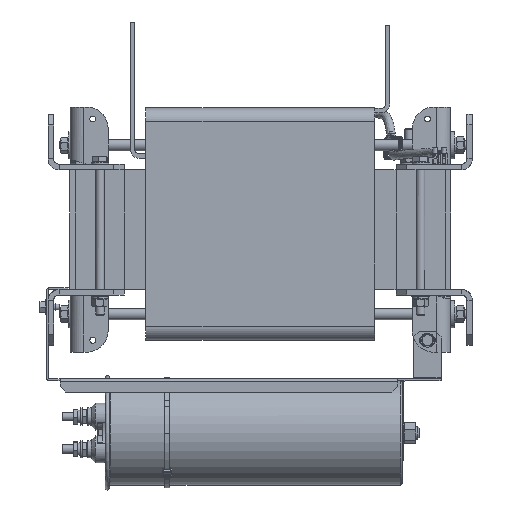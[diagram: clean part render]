
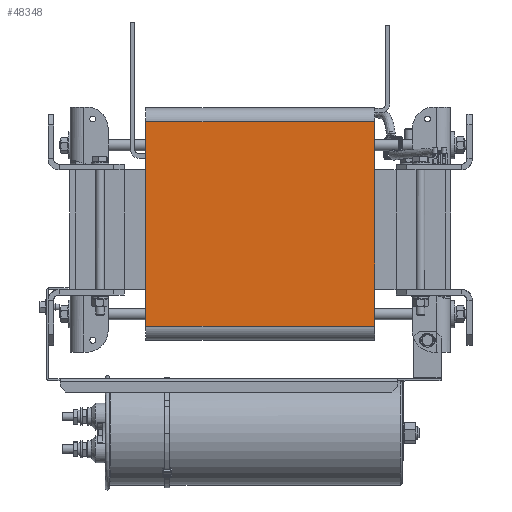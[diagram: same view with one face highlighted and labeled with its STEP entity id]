
A CAD part, left-side view. The second image highlights one B-rep face of the part: STEP entity #48348.
In plain terms, the highlighted planar face has unit normal (-1, 0, 0).
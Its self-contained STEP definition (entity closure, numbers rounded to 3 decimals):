
#2783=PLANE('',#52264);
#4944=FACE_OUTER_BOUND('',#7717,.T.);
#7717=EDGE_LOOP('',(#39855,#39856,#39857,#39858));
#11659=LINE('',#80048,#15820);
#11665=LINE('',#80067,#15826);
#11673=LINE('',#80084,#15834);
#11674=LINE('',#80086,#15835);
#15820=VECTOR('',#62846,10.);
#15826=VECTOR('',#62862,10.);
#15834=VECTOR('',#62880,10.);
#15835=VECTOR('',#62883,10.);
#22289=VERTEX_POINT('',#80045);
#22290=VERTEX_POINT('',#80047);
#22297=VERTEX_POINT('',#80064);
#22298=VERTEX_POINT('',#80066);
#28400=EDGE_CURVE('',#22289,#22290,#11659,.T.);
#28410=EDGE_CURVE('',#22297,#22298,#11665,.T.);
#28420=EDGE_CURVE('',#22298,#22289,#11673,.T.);
#28421=EDGE_CURVE('',#22297,#22290,#11674,.T.);
#39855=ORIENTED_EDGE('',*,*,#28420,.F.);
#39856=ORIENTED_EDGE('',*,*,#28410,.F.);
#39857=ORIENTED_EDGE('',*,*,#28421,.T.);
#39858=ORIENTED_EDGE('',*,*,#28400,.F.);
#48348=ADVANCED_FACE('',(#4944),#2783,.T.);
#52264=AXIS2_PLACEMENT_3D('',#80085,#62881,#62882);
#62846=DIRECTION('',(0.,0.,-1.));
#62862=DIRECTION('',(0.,0.,1.));
#62880=DIRECTION('',(0.,-1.,0.));
#62881=DIRECTION('center_axis',(-1.,0.,0.));
#62882=DIRECTION('ref_axis',(0.,0.,1.));
#62883=DIRECTION('',(0.,-1.,0.));
#80045=CARTESIAN_POINT('',(-203.828,-105.,99.062));
#80047=CARTESIAN_POINT('',(-203.828,-105.,-88.562));
#80048=CARTESIAN_POINT('',(-203.828,-105.,99.062));
#80064=CARTESIAN_POINT('',(-203.828,105.,-88.562));
#80066=CARTESIAN_POINT('',(-203.828,105.,99.062));
#80067=CARTESIAN_POINT('',(-203.828,105.,99.062));
#80084=CARTESIAN_POINT('',(-203.828,0.,99.062));
#80085=CARTESIAN_POINT('Origin',(-203.828,0.,-88.562));
#80086=CARTESIAN_POINT('',(-203.828,0.,-88.562));
